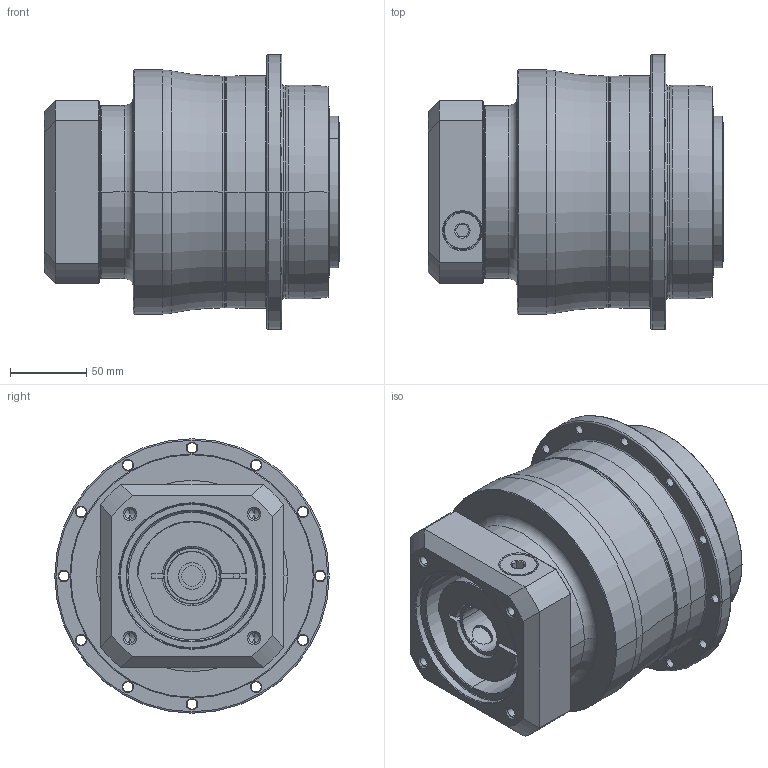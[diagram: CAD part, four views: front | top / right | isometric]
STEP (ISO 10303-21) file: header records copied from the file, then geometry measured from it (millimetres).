
FILE_DESCRIPTION((''),'2;1');
FILE_NAME('AH140_2ST_32-P0409700101_ASM','2016-08-08T',('d01943'),(''),'PRO/ENGINEER BY PARAMETRIC TECHNOLOGY CORPORATION, 2008410','PRO/ENGINEER BY PARAMETRIC TECHNOLOGY CORPORATION, 2008410','');
FILE_SCHEMA(('CONFIG_CONTROL_DESIGN'));
Length unit declared in the file: millimetre
Products named in the file (8): P0278500003; P0359500002; P1317500301; P0409700101; P0503700010; P0912403001; 21711418017; AH140_2ST_32-P0409700101_ASM
Assembly tree (7 placements, depth 2):
  AH140_2ST_32-P0409700101_ASM
    P0278500003
    P0359500002
    P1317500301
    P0409700101
    P0503700010
    P0912403001
    21711418017
Bounding box: 194 x 180 x 180 mm (x, y, z)
Volume: 2769479.1 mm3; surface area: 310285.8 mm2
Topology: 8 solids, 8 shells, 549 faces, 1245 edges, 731 vertices
Faces by surface type: cylinder 210, cone 168, plane 97, torus 60, bspline 14
Entity records: 19815 total; most frequent: CARTESIAN_POINT 7253, DIRECTION 2831, ORIENTED_EDGE 2398, EDGE_CURVE 1199, AXIS2_PLACEMENT_3D 1191, VERTEX_POINT 731, EDGE_LOOP 652, CIRCLE 641
